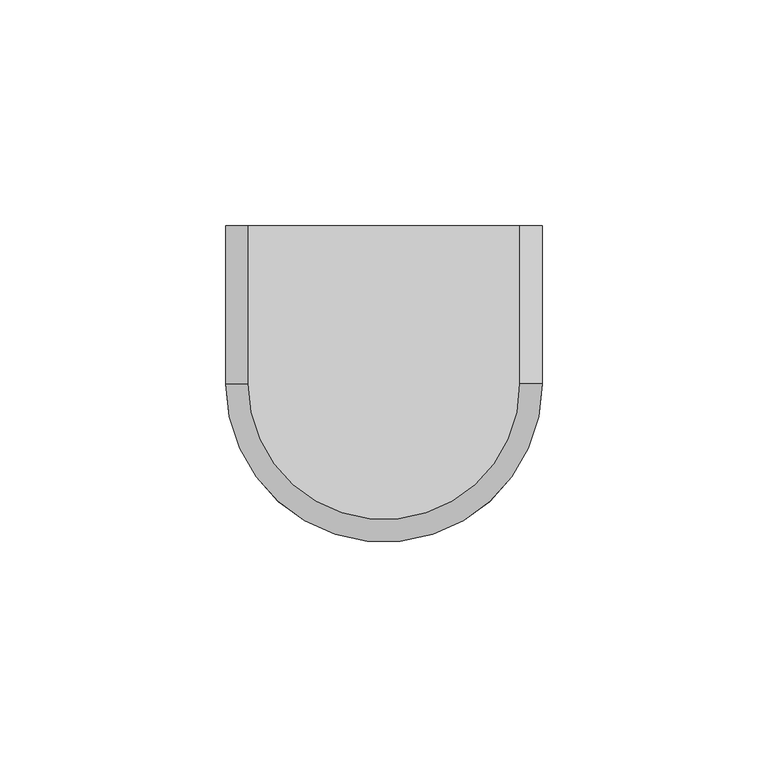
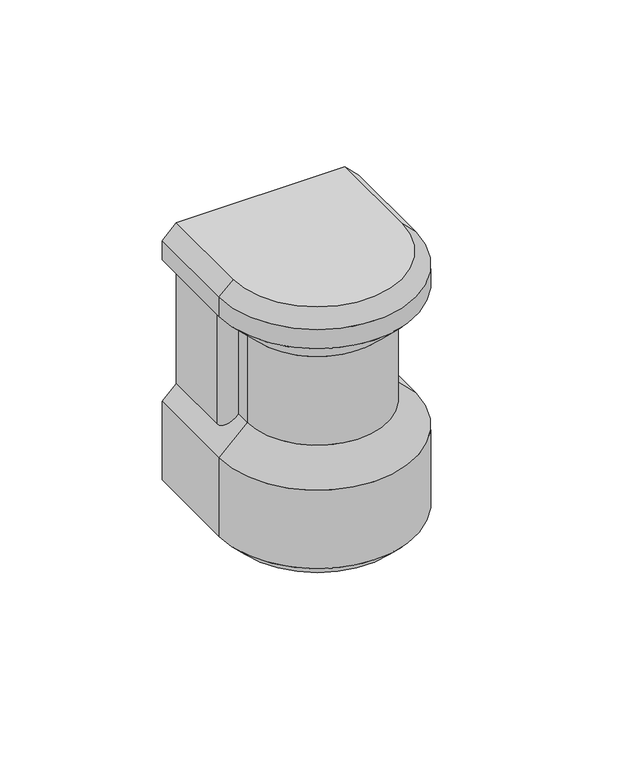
"""IFC4 building model written with IfcOpenShell, lengths in millimetres: proxy geometry, AI_Disp secu_Détecteur volumétrique : Presence Detector - 70 x 100 x 70."""

import ifcopenshell
import ifcopenshell.guid

model = None  # the IFC model being written
_history = None  # IfcOwnerHistory: only IFC2X3 demands one
_inside = {}  # id of a spatial element -> (the spatial element, [elements in it])
_under = {}  # id of a project, library or spatial element -> (it, [spatial elements below it])
_declared = {}  # id of a project -> (the project, [libraries it declares])
_typed = {}  # id of a type object -> (the type object, [elements of that type])
_made_of = {}  # id of a material, layer set ... -> (it, [elements and type objects made of it])


def new_model(schema):
    """Start an empty IFC model of exactly this schema.

    Asked for "IFC4X3", IfcOpenShell would pick the latest addendum, in which some entities
    have other attributes; the version numbers below select the first issue.
    IFC2X3 requires an IfcOwnerHistory on every rooted entity: one is made here for all.
    """
    global model, _history
    if schema == "IFC4X3":
        model = ifcopenshell.file(schema_version=(4, 3, 0, 0))
    else:
        model = ifcopenshell.file(schema=schema)
    _inside.clear()
    _under.clear()
    _declared.clear()
    _typed.clear()
    _made_of.clear()
    _history = None
    if model.schema == "IFC2X3":
        org = make("IfcOrganization", Name="unknown")
        user = make(
            "IfcPersonAndOrganization",
            ThePerson=make("IfcPerson", FamilyName="unknown"),
            TheOrganization=org,
        )
        app = make(
            "IfcApplication",
            ApplicationDeveloper=org,
            Version="unknown",
            ApplicationFullName="unknown",
            ApplicationIdentifier="unknown",
        )
        _history = make(
            "IfcOwnerHistory",
            OwningUser=user,
            OwningApplication=app,
            ChangeAction="ADDED",
            CreationDate=0,
        )
    return model


def make(cls, **values):
    """One entity of the class cls with the attributes given. An attribute that is None is left unset."""
    return model.create_entity(
        cls, **{name: value for name, value in values.items() if value is not None}
    )


def rooted(cls, **values):
    """An entity with a GlobalId (a new one), such as an element, a storey or a relation."""
    return make(cls, GlobalId=ifcopenshell.guid.new(), OwnerHistory=_history, **values)


def si_unit(unit_type, name, prefix=None):
    """IfcSIUnit, for example si_unit("LENGTHUNIT", "METRE", prefix="MILLI")."""
    return make("IfcSIUnit", UnitType=unit_type, Prefix=prefix, Name=name)


def assignment(units):
    """IfcUnitAssignment: the units of a project."""
    return None if units is None else make("IfcUnitAssignment", Units=units)


def point(xyz):
    """IfcCartesianPoint."""
    return None if xyz is None else make("IfcCartesianPoint", Coordinates=xyz)


def direction(xyz):
    """IfcDirection."""
    return None if xyz is None else make("IfcDirection", DirectionRatios=xyz)


def frame(location, z_axis=None, x_axis=None):
    """IfcAxis2Placement3D, a coordinate frame: its origin and axes. An axis left out is left unset."""
    return make(
        "IfcAxis2Placement3D",
        Location=point(location),
        Axis=direction(z_axis),
        RefDirection=direction(x_axis),
    )


def origin():
    """The frame at (0, 0, 0) with its axes left unset."""
    return frame((0.0, 0.0, 0.0))


def place(relative_to, where):
    """IfcLocalPlacement: puts the frame where relative to a parent placement (None: the world)."""
    return make(
        "IfcLocalPlacement", PlacementRelTo=relative_to, RelativePlacement=where
    )


def context(
    kind, dimensions, precision=None, world=None, true_north=None, identifier=None
):
    """IfcGeometricRepresentationContext, for example the 3D "Model" context."""
    return make(
        "IfcGeometricRepresentationContext",
        ContextIdentifier=identifier,
        ContextType=kind,
        CoordinateSpaceDimension=dimensions,
        Precision=precision,
        WorldCoordinateSystem=world,
        TrueNorth=true_north,
    )


def project(units=None, contexts=None):
    """IfcProject with its units and contexts."""
    return rooted(
        "IfcProject",
        Name="project",
        RepresentationContexts=contexts,
        UnitsInContext=assignment(units),
    )


def spatial(cls, under=None, at=None, **own):
    """A site, building, storey or space (cls), placed at a placement, below another one or the project."""
    s = rooted(cls, ObjectPlacement=at, **own)
    if under is not None:
        _under.setdefault(under.id(), (under, []))[1].append(s)
    return s


def polyline(points):
    """IfcPolyline through the points."""
    return make("IfcPolyline", Points=[point(p) for p in points])


def circle_curve(where, radius):
    """IfcCircle in the frame where."""
    return make("IfcCircle", Position=where, Radius=radius)


def ellipse_curve(where, semi_axis1, semi_axis2):
    """IfcEllipse in the frame where."""
    return make(
        "IfcEllipse", Position=where, SemiAxis1=semi_axis1, SemiAxis2=semi_axis2
    )


def shape(context_of_items, identifier, shape_type, items):
    """IfcShapeRepresentation: the items that make up one representation, for example the "Body"."""
    return make(
        "IfcShapeRepresentation",
        ContextOfItems=context_of_items,
        RepresentationIdentifier=identifier,
        RepresentationType=shape_type,
        Items=items,
    )


def source(mapping_origin, context_of_items, identifier, shape_type, items):
    """IfcRepresentationMap: a shape defined once, which mapped items show again and again."""
    return make(
        "IfcRepresentationMap",
        MappingOrigin=mapping_origin,
        MappedRepresentation=shape(context_of_items, identifier, shape_type, items),
    )


def transform(
    local_origin,
    x_axis=None,
    y_axis=None,
    z_axis=None,
    scale=None,
    scale2=None,
    scale3=None,
    uniform=True,
):
    """IfcCartesianTransformationOperator3D, or its non-uniform kind. x_axis, y_axis, z_axis: its Axis1, 2, 3."""
    if uniform:
        return make(
            "IfcCartesianTransformationOperator3D",
            Axis1=direction(x_axis),
            Axis2=direction(y_axis),
            LocalOrigin=point(local_origin),
            Scale=scale,
            Axis3=direction(z_axis),
        )
    return make(
        "IfcCartesianTransformationOperator3DnonUniform",
        Axis1=direction(x_axis),
        Axis2=direction(y_axis),
        LocalOrigin=point(local_origin),
        Scale=scale,
        Axis3=direction(z_axis),
        Scale2=scale2,
        Scale3=scale3,
    )


def mapped(mapping_source, mapping_target):
    """IfcMappedItem: shows the shape of a source again, moved by a transform."""
    return make(
        "IfcMappedItem", MappingSource=mapping_source, MappingTarget=mapping_target
    )


def made_of(thing, what):
    """Note that an element or type object is made of a material, layer set ...; save() writes the relation."""
    if what is not None:
        _made_of.setdefault(what.id(), (what, []))[1].append(thing)
    return thing


def element(
    cls,
    number,
    at=None,
    inside=None,
    cuts=None,
    type_object=None,
    material=None,
    context=None,
    identifier="Body",
    shape_type=None,
    held_by="IfcProductDefinitionShape",
    body=None,
    shapes=None,
    **own,
):
    """One element of the class cls, such as IfcWall. Its Tag is "e" and its number.

    at: its placement. inside: the storey or other place that contains it. cuts: it is an
    opening in that element (IfcRelVoidsElement). A single representation is given by context,
    identifier, shape_type and body (its items); several are given by shapes. held_by: the class
    of the entity that holds the representations. save() writes the other relations.
    """
    e = rooted(cls, Tag="e%d" % number, ObjectPlacement=at, **own)
    if body is not None:
        shapes = [shape(context, identifier, shape_type, body)]
    if shapes is not None:
        e.Representation = make(held_by, Representations=shapes)
    if inside is not None:
        _inside.setdefault(inside.id(), (inside, []))[1].append(e)
    if cuts is not None:
        rooted(
            "IfcRelVoidsElement", RelatingBuildingElement=cuts, RelatedOpeningElement=e
        )
    if type_object is not None:
        _typed.setdefault(type_object.id(), (type_object, []))[1].append(e)
    return made_of(e, material)


def aggregate(whole, parts):
    """IfcRelAggregates: a whole, such as a stair, and the parts it consists of."""
    return rooted("IfcRelAggregates", RelatingObject=whole, RelatedObjects=parts)


def save(model, path):
    """Write the relations noted so far, then the file.

    IfcRelAggregates (storeys below a building ...), IfcRelContainedInSpatialStructure (elements
    in a storey), IfcRelDefinesByType, IfcRelAssociatesMaterial and IfcRelDeclares: one each for
    every whole, place, type object, material and project.
    """
    for whole, parts in _under.values():
        aggregate(whole, parts)
    for where, things in _inside.values():
        rooted(
            "IfcRelContainedInSpatialStructure",
            RelatedElements=things,
            RelatingStructure=where,
        )
    for kind, things in _typed.values():
        rooted("IfcRelDefinesByType", RelatedObjects=things, RelatingType=kind)
    for what, things in _made_of.values():
        rooted("IfcRelAssociatesMaterial", RelatedObjects=things, RelatingMaterial=what)
    for by, libraries in _declared.values():
        rooted("IfcRelDeclares", RelatingContext=by, RelatedDefinitions=libraries)
    model.write(path)


def plane_surface(at):
    """IfcPlane: the flat surface through the origin of the frame at, square to its z axis."""
    return make("IfcPlane", Position=at)


def cylinder_surface(at, radius):
    """IfcCylindricalSurface: all points at the distance radius from the z axis of the frame at."""
    return make("IfcCylindricalSurface", Position=at, Radius=radius)


def revolved_surface(curve, axis_point, axis_direction):
    """IfcSurfaceOfRevolution: the curve turned about the line through axis_point along axis_direction."""
    return make(
        "IfcSurfaceOfRevolution",
        SweptCurve=make("IfcArbitraryOpenProfileDef", ProfileType="CURVE", Curve=curve),
        AxisPosition=make("IfcAxis1Placement", Location=point(axis_point), Axis=direction(axis_direction)),
    )


def advanced_brep(points, edges, surfaces, faces):
    """IfcAdvancedBrep: a solid bounded by faces that lie on surfaces and meet in shared edges.

    An edge is (start, end): straight between two places in points (the first is 0);
    or (start, end, curve); or (start, end, curve, False) where it runs against its curve.
    A face is (place in surfaces, loops), or (place, loops, False) where it looks against
    its surface's normal. A loop lists edges by number (the first is 1), with a minus sign
    where the edge is run from its end to its start. The first loop is the outer one.
    """
    corners = [point(p) for p in points]
    vertices = [make("IfcVertexPoint", VertexGeometry=c) for c in corners]
    made = []
    for start, end, *more in edges:
        made.append(
            make(
                "IfcEdgeCurve",
                EdgeStart=vertices[start],
                EdgeEnd=vertices[end],
                EdgeGeometry=more[0] if more else make("IfcPolyline", Points=[corners[start], corners[end]]),
                SameSense=more[1] if len(more) > 1 else True,
            )
        )
    hull = []
    for where, loops, *sense in faces:
        bounds = []
        for j, loop in enumerate(loops):
            ring = [make("IfcOrientedEdge", EdgeElement=made[abs(k) - 1], Orientation=k > 0) for k in loop]
            bounds.append(
                make(
                    "IfcFaceOuterBound" if j == 0 else "IfcFaceBound",
                    Bound=make("IfcEdgeLoop", EdgeList=ring),
                    Orientation=True,
                )
            )
        hull.append(make("IfcAdvancedFace", Bounds=bounds, FaceSurface=surfaces[where], SameSense=sense[0] if sense else True))
    return make("IfcAdvancedBrep", Outer=make("IfcClosedShell", CfsFaces=hull))


def security_devices_b28b6cb9(model_context):
    return source(origin(), model_context, "Body", "AdvancedBrep", [
        advanced_brep(
        [(-30.0, 0.0, 100.0), (-30.0, -35.0, 100.0), (30.0, -35.0, 100.0), (30.0, 0.0, 100.0), (30.0, 0.0, 0.0), (30.0, -35.0, 0.0), (-30.0, -35.0, 0.0), (-30.0, 0.0, 0.0), (25.0, -35.0, 77.7777778), (25.0, -35.0, 44.4444444), (25.0, -30.0, 44.4444444), (25.0, -30.0, 77.7777778), (-35.0, 0.0, 5.0), (-35.0, 0.0, 34.4444444), (-30.0, 0.0, 39.4444444), (-30.0, 0.0, 82.7777778), (-35.0, 0.0, 87.7777778), (-35.0, 0.0, 95.0), (35.0, 0.0, 95.0), (35.0, 0.0, 87.7777778), (30.0, 0.0, 82.7777778), (30.0, 0.0, 39.4444444), (35.0, 0.0, 34.4444444), (35.0, 0.0, 5.0), (-25.0, -35.0, 44.4444444), (-25.0, -35.0, 77.7777778), (-25.0, -30.0, 77.7777778), (-25.0, -30.0, 44.4444444), (-35.0, -35.0, 5.0), (-35.0, -35.0, 34.4444444), (35.0, -35.0, 5.0), (35.0, -35.0, 34.4444444), (-30.0, -25.0, 39.4444444), (30.0, -25.0, 39.4444444), (-35.0, -35.0, 95.0), (-35.0, -35.0, 87.7777778), (-30.0, -25.0, 82.7777778), (35.0, -35.0, 95.0), (35.0, -35.0, 87.7777778), (30.0, -25.0, 82.7777778)],
        [
            (0, 1),
            (1, 2, circle_curve(frame((0.0, -35.0, 100.0), z_axis=(0.0, 0.0, 1.0), x_axis=(-1.0, 0.0, 0.0)), 30.0)),
            (2, 3),
            (3, 0),
            (4, 5),
            (5, 6, circle_curve(frame((0.0, -35.0, 0.0), z_axis=(0.0, 0.0, -1.0), x_axis=(-1.0, 0.0, 0.0)), 30.0)),
            (6, 7),
            (7, 4),
            (8, 9),
            (9, 10),
            (10, 11),
            (11, 8),
            (12, 13),
            (13, 14),
            (14, 15),
            (15, 16),
            (16, 17),
            (17, 0),
            (3, 18),
            (18, 19),
            (19, 20),
            (20, 21),
            (21, 22),
            (22, 23),
            (23, 4),
            (7, 12),
            (24, 25),
            (25, 26),
            (26, 27),
            (27, 24),
            (8, 25, circle_curve(frame((0.0, -35.0, 77.7777778), z_axis=(0.0, 0.0, -1.0), x_axis=(1.0, 0.0, 0.0)), 25.0)),
            (24, 9, circle_curve(frame((0.0, -35.0, 44.4444444), z_axis=(0.0, 0.0, 1.0), x_axis=(1.0, 0.0, 0.0)), 25.0)),
            (6, 28),
            (28, 12),
            (28, 29),
            (29, 13),
            (5, 30),
            (30, 28, circle_curve(frame((0.0, -35.0, 5.0), z_axis=(0.0, 0.0, -1.0), x_axis=(-1.0, 0.0, 0.0)), 35.0)),
            (30, 31),
            (31, 29, circle_curve(frame((0.0, -35.0, 34.4444444), z_axis=(0.0, 0.0, -1.0), x_axis=(-1.0, 0.0, 0.0)), 35.0)),
            (23, 30),
            (22, 31),
            (29, 24),
            (27, 32, ellipse_curve(frame((-25.0, -25.0, 44.4444444), z_axis=(0.7071067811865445, 0.0, -0.7071067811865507), x_axis=(0.7071067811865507, 0.0, 0.7071067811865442)), 7.0710678, 5.0)),
            (32, 14),
            (31, 9),
            (21, 33),
            (33, 10, ellipse_curve(frame((25.0, -25.0, 44.4444444), z_axis=(-0.7071067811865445, 0.0, -0.7071067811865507), x_axis=(-0.7071067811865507, 0.0, 0.7071067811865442)), 7.0710678, 5.0)),
            (17, 34),
            (34, 1),
            (25, 35),
            (35, 16),
            (15, 36),
            (36, 26, ellipse_curve(frame((-25.0, -25.0, 77.7777778), z_axis=(0.7071067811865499, 0.0, 0.7071067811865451), x_axis=(-0.7071067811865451, 0.0, 0.7071067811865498)), 7.0710678, 5.0)),
            (35, 34),
            (34, 37, circle_curve(frame((0.0, -35.0, 95.0), z_axis=(0.0, 0.0, 1.0), x_axis=(-1.0, 0.0, 0.0)), 35.0)),
            (37, 2),
            (8, 38),
            (38, 35, circle_curve(frame((0.0, -35.0, 87.7777778), z_axis=(0.0, 0.0, -1.0), x_axis=(-1.0, 0.0, 0.0)), 35.0)),
            (38, 37),
            (37, 18),
            (11, 39, ellipse_curve(frame((25.0, -25.0, 77.7777778), z_axis=(-0.7071067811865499, 0.0, 0.7071067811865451), x_axis=(0.7071067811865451, 0.0, 0.7071067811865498)), 7.0710678, 5.0)),
            (39, 20),
            (19, 38),
            (32, 36),
            (33, 39),
        ],
        [
            plane_surface(frame((25.0, 0.0, 100.0), z_axis=(0.0, 0.0, 1.0), x_axis=(0.0, 1.0, 0.0))),
            plane_surface(frame((25.0, 0.0, 0.0), z_axis=(0.0, 0.0, -1.0), x_axis=(0.0, -1.0, 0.0))),
            plane_surface(frame((25.0, -35.0, 100.0), z_axis=(1.0, 0.0, 0.0), x_axis=(0.0, 0.0, -1.0))),
            plane_surface(frame((25.0, 0.0, 100.0), z_axis=(0.0, 1.0, 0.0), x_axis=(0.0, 0.0, -1.0))),
            plane_surface(frame((-25.0, 0.0, 100.0), z_axis=(-1.0, 0.0, 0.0), x_axis=(0.0, 0.0, -1.0))),
            cylinder_surface(frame((0.0, -35.0, 0.0), z_axis=(0.0, 0.0, 1.0), x_axis=(1.0, 0.0, 0.0)), 25.0),
            plane_surface(frame((-30.0, 0.0, 0.0), z_axis=(-0.7071067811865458, 0.0, -0.7071067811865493), x_axis=(0.0, -1.0, 0.0))),
            plane_surface(frame((-35.0, 0.0, 5.0), z_axis=(-1.0, 0.0, 0.0), x_axis=(0.0, -1.0, 0.0))),
            revolved_surface(polyline([(-30.0, -35.0, 0.0), (-35.0, -35.0, 5.0)]), (0.0, -35.0, 0.0), (0.0, 0.0, 1.0)),
            cylinder_surface(frame((0.0, -35.0, 0.0), z_axis=(0.0, 0.0, 1.0), x_axis=(-1.0, 0.0, 0.0)), 35.0),
            plane_surface(frame((30.0, -35.0, 0.0), z_axis=(0.7071067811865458, 0.0, -0.7071067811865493), x_axis=(0.0, 1.0, 0.0))),
            plane_surface(frame((35.0, -35.0, 5.0), z_axis=(1.0, 0.0, 0.0), x_axis=(0.0, 1.0, 0.0))),
            plane_surface(frame((-35.0, 0.0, 34.4444444), z_axis=(-0.7071067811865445, 0.0, 0.7071067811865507), x_axis=(0.0, -1.0, 0.0))),
            revolved_surface(polyline([(-35.0, -35.0, 34.4444444), (-25.0, -35.0, 44.4444444)]), (0.0, -35.0, 0.0), (0.0, 0.0, 1.0)),
            plane_surface(frame((35.0, -35.0, 34.4444444), z_axis=(0.7071067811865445, 0.0, 0.7071067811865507), x_axis=(0.0, 1.0, 0.0))),
            plane_surface(frame((-35.0, 0.0, 95.0), z_axis=(-0.7071067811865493, 0.0, 0.7071067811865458), x_axis=(0.0, -1.0, 0.0))),
            plane_surface(frame((-25.0, 0.0, 77.7777778), z_axis=(-0.7071067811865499, 0.0, -0.7071067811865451), x_axis=(0.0, -1.0, 0.0))),
            plane_surface(frame((-35.0, 0.0, 87.7777778), z_axis=(-1.0, 0.0, 0.0), x_axis=(0.0, -1.0, 0.0))),
            revolved_surface(polyline([(-35.0, -35.0, 95.0), (-30.0, -35.0, 100.0)]), (0.0, -35.0, 0.0), (0.0, 0.0, 1.0)),
            revolved_surface(polyline([(-25.0, -35.0, 77.7777778), (-35.0, -35.0, 87.7777778)]), (0.0, -35.0, 0.0), (0.0, 0.0, 1.0)),
            plane_surface(frame((35.0, -35.0, 95.0), z_axis=(0.7071067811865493, 0.0, 0.7071067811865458), x_axis=(0.0, 1.0, 0.0))),
            plane_surface(frame((25.0, -35.0, 77.7777778), z_axis=(0.7071067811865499, 0.0, -0.7071067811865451), x_axis=(0.0, 1.0, 0.0))),
            plane_surface(frame((35.0, -35.0, 87.7777778), z_axis=(1.0, 0.0, 0.0), x_axis=(0.0, 1.0, 0.0))),
            plane_surface(frame((-30.0, 0.0, 88.8888889), z_axis=(-1.0, 0.0, 0.0), x_axis=(0.0, 0.0, -1.0))),
            cylinder_surface(frame((-25.0, -25.0, 33.3333333), z_axis=(0.0, 0.0, 1.0), x_axis=(0.0, -1.0, 0.0)), 5.0),
            cylinder_surface(frame((25.0, -25.0, 33.3333333), z_axis=(0.0, 0.0, 1.0), x_axis=(0.0, -1.0, 0.0)), 5.0),
            plane_surface(frame((30.0, -25.0, 88.8888889), z_axis=(1.0, 0.0, 0.0), x_axis=(0.0, 0.0, -1.0))),
        ],
        [
            (0, [[1, 2, 3, 4]]),
            (1, [[5, 6, 7, 8]]),
            (2, [[9, 10, 11, 12]]),
            (3, [[13, 14, 15, 16, 17, 18, -4, 19, 20, 21, 22, 23, 24, 25, -8, 26]]),
            (4, [[27, 28, 29, 30]]),
            (5, [[-9, 31, -27, 32]]),
            (6, [[-26, -7, 33, 34]]),
            (7, [[-13, -34, 35, 36]]),
            (8, [[-6, 37, 38, -33]]),
            (9, [[-35, -38, 39, 40]]),
            (10, [[-5, -25, 41, -37]]),
            (11, [[-39, -41, -24, 42]]),
            (12, [[-36, 43, -30, 44, 45, -14]]),
            (13, [[-40, 46, -32, -43]]),
            (14, [[-42, -23, 47, 48, -10, -46]]),
            (15, [[-18, 49, 50, -1]]),
            (16, [[51, 52, -16, 53, 54, -28]]),
            (17, [[-17, -52, 55, -49]]),
            (18, [[-50, 56, 57, -2]]),
            (19, [[-51, -31, 58, 59]]),
            (9, [[-55, -59, 60, -56]]),
            (20, [[-19, -3, -57, 61]]),
            (21, [[-58, -12, 62, 63, -21, 64]]),
            (22, [[-20, -61, -60, -64]]),
            (23, [[-15, -45, 65, -53]]),
            (24, [[-65, -44, -29, -54]]),
            (25, [[66, -62, -11, -48]]),
            (26, [[-22, -63, -66, -47]]),
        ],
    ),
    ])


if __name__ == "__main__":
    model = new_model("IFC4")
    model_context = context("Model", 3, world=origin())
    ifc_project = project(units=[si_unit("LENGTHUNIT", "METRE", prefix="MILLI")], contexts=[model_context])
    site = spatial("IfcSite", under=ifc_project)
    building = spatial("IfcBuilding", under=site)
    placement = place(None, origin())
    security_devices_shape = security_devices_b28b6cb9(model_context)
    element("IfcBuildingElementProxy", 1, Name="AI_Disp secu_Détecteur volumétrique : Presence Detector - 70 x 100 x 70", ObjectType="AI_Disp secu_Détecteur volumétrique : Presence Detector - 70 x 100 x 70", at=placement, inside=building, context=model_context, shape_type="MappedRepresentation", body=[
        mapped(security_devices_shape, transform((0.0, 0.0, 0.0), x_axis=(1.0, 0.0, 0.0), y_axis=(0.0, 1.0, 0.0), z_axis=(0.0, 0.0, 1.0))),
    ])
    save(model, "model.ifc")
